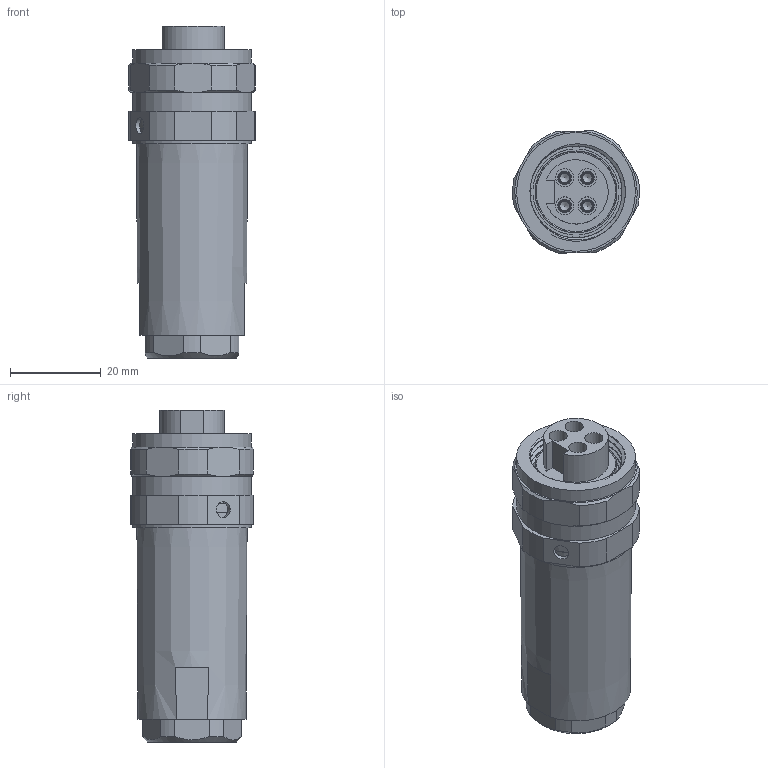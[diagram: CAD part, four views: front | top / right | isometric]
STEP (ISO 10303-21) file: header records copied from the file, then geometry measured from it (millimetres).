
FILE_DESCRIPTION(/* description */ (''),/* implementation_level */ '2;1');
FILE_NAME(/* name */ '7 8 4FS-PG11_stp.stp',/* time_stamp */ '2024-09-14T09:20:09+08:00',/* author */ (''),/* organization */ (''),/* preprocessor_version */ 'ST-DEVELOPER v16.7',/* originating_system */ 'SIEMENS PLM Software NX 12.0',/* authorisation */ '');
FILE_SCHEMA (('AP203_CONFIGURATION_CONTROLLED_3D_DESIGN_OF_MECHANICAL_PARTS_AND_ASSEMBLIES_MIM_LF { 1 0 10303 403 2 1 2}'));
Length unit declared in the file: millimetre
Products named in the file (1): lyj43E03B3Ds2oq
Bounding box: 27.95 x 26.94 x 73.2 mm (x, y, z)
Volume: 29072.9 mm3; surface area: 15054.4 mm2
Topology: 1 solids, 2 shells, 385 faces, 1066 edges, 713 vertices
Faces by surface type: plane 168, cylinder 119, cone 82, torus 8, bspline 7, revolution 1
Full cylindrical faces by diameter (mm): 2.1 x4, 2.7 x4, 3 x4, 3.5 x1, 4 x4, 12.2 x1, 12.4 x1, 13.6 x1, 17.2 x1, 18 x1, 18.5 x1, 20.3 x2, 23.399 x2, 24 x1, 25 x1, 26.2 x3
Entity records: 16072 total; most frequent: CARTESIAN_POINT 6361, DIRECTION 2035, ORIENTED_EDGE 1966, EDGE_CURVE 983, AXIS2_PLACEMENT_3D 779, VERTEX_POINT 679, LINE 476, VECTOR 476
